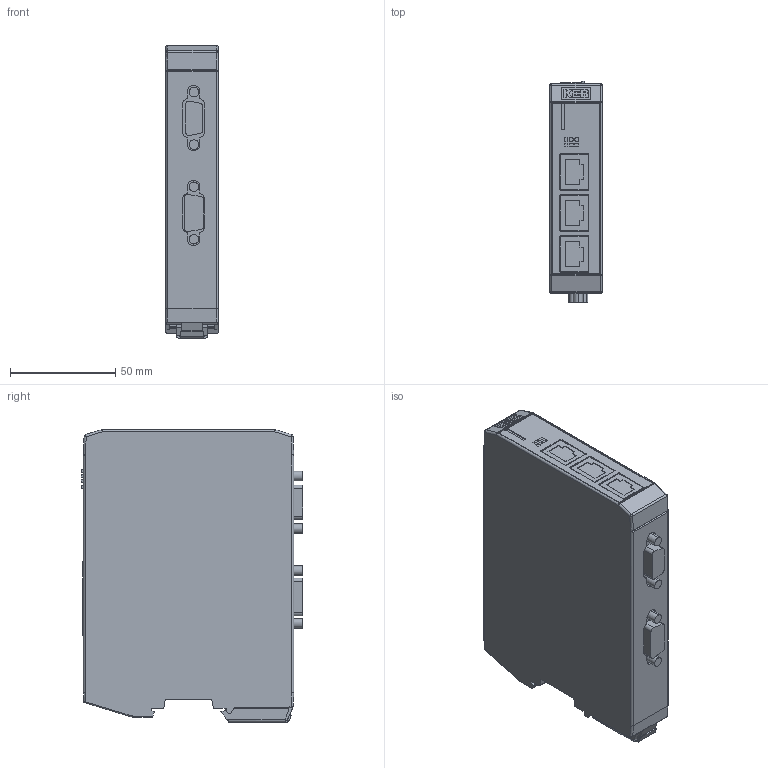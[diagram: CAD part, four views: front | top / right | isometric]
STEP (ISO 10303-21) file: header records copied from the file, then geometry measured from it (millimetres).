
FILE_DESCRIPTION (( 'STEP AP214' ), '1' );
FILE_NAME ('00C6BE1-2000.STEP', '2025-05-12T12:55:11', ( '' ), ( '' ), 'SwSTEP 2.0', 'SolidWorks 2022', '' );
FILE_SCHEMA (( 'AUTOMOTIVE_DESIGN' ));
Length unit declared in the file: millimetre
Products named in the file (1): 00C6BE1-2000
Bounding box: 25 x 105.36 x 139.25 mm (x, y, z)
Volume: 332510.7 mm3; surface area: 40441.6 mm2
Topology: 1 solids, 1 shells, 462 faces, 1222 edges, 792 vertices
Faces by surface type: plane 295, cylinder 132, bspline 35
Entity records: 15990 total; most frequent: CARTESIAN_POINT 4806, ORIENTED_EDGE 2428, DIRECTION 2105, EDGE_CURVE 1214, LINE 863, VECTOR 863, VERTEX_POINT 792, AXIS2_PLACEMENT_3D 621
